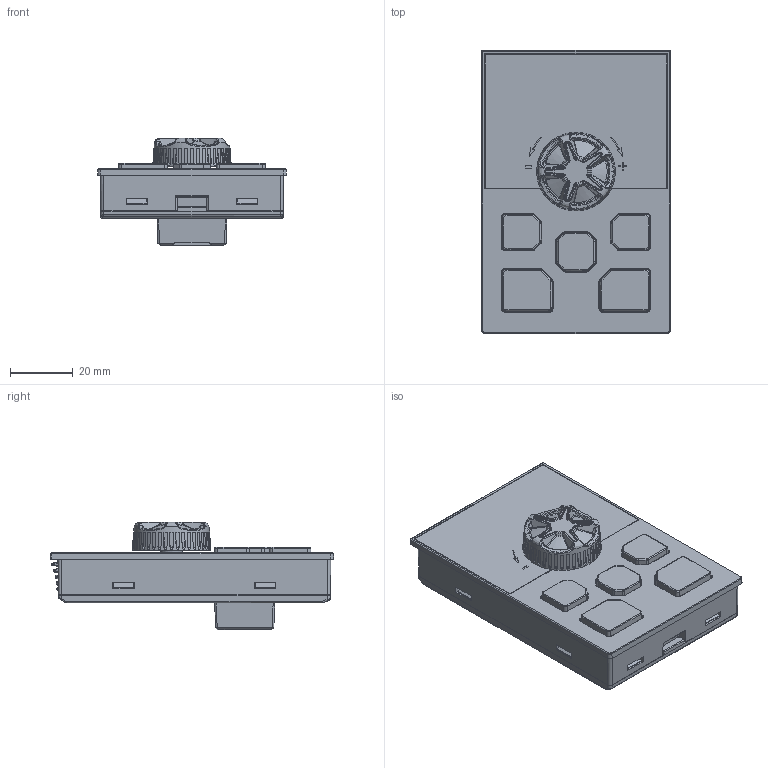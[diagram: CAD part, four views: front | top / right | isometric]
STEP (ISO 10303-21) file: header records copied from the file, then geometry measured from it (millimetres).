
FILE_DESCRIPTION(('STEP AP203'), '1');
FILE_NAME('NCI-KP _ Âûíîñíàÿ ïàíåëü', '2025-01-13T10:10:50', ('admin'), (''), 'C3D Converter', 'C3D Toolkit', '');
FILE_SCHEMA(('CONFIG_CONTROL_DESIGN'));
Length unit declared in the file: millimetre
Products named in the file (13): NCI-KP; GM600-JP-SJ_ASM; GM600-JP-SJ-01; GM600-JP-SJ-02; GM600-JP-SJ-03; GM600-JP-PCB_ASM; GM600-JP-PCB; PCB; LED50361; DWQ; ANJIAN; GM600-JP-SJ-05; GM600-JP-SJ-07
Assembly tree (16 placements, depth 3):
  NCI-KP
    GM600-JP-SJ_ASM
      GM600-JP-SJ-01
      GM600-JP-SJ-02
      GM600-JP-SJ-03
    GM600-JP-PCB_ASM
      GM600-JP-PCB
      PCB
      LED50361
      DWQ
      ANJIAN  x5
    GM600-JP-SJ-05
    GM600-JP-SJ-07
Bounding box: 60 x 90 x 34.3 mm (x, y, z)
Volume: 51545.2 mm3; surface area: 68921 mm2
Topology: 14 solids, 14 shells, 3382 faces, 8440 edges, 5280 vertices
Faces by surface type: plane 1446, cylinder 833, bspline 768, cone 159, torus 82, extrusion 64, sphere 20, revolution 10
Full cylindrical faces by diameter (mm): 0.5 x18, 1 x24, 1.5 x1, 2 x5, 2.3 x5, 2.54 x1, 3 x6, 3.3 x1, 3.5 x5, 6 x1, 6.8 x1, 9.2 x1
Entity records: 191250 total; most frequent: CARTESIAN_POINT 94251, ORIENTED_EDGE 16452, DIRECTION 11131, EDGE_CURVE 8226, VERTEX_POINT 5208, VECTOR 4191, LINE 4127, EDGE_LOOP 3654
